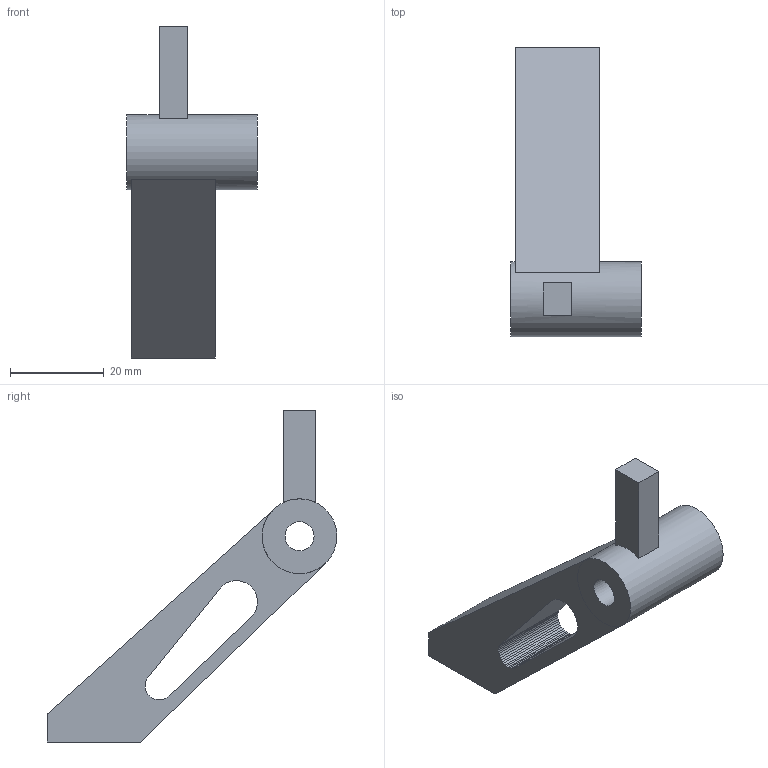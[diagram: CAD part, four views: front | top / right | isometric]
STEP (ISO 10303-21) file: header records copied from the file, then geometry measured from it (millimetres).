
FILE_DESCRIPTION(('Open CASCADE Model'),'2;1');
FILE_NAME('Open CASCADE Shape Model','2026-10-15T19:48:38',('Author'),( 'Open CASCADE'),'Open CASCADE STEP processor 7.9','Open CASCADE 7.9' ,'Unknown');
FILE_SCHEMA(('AUTOMOTIVE_DESIGN { 1 0 10303 214 1 1 1 1 }'));
Length unit declared in the file: millimetre
Products named in the file (1): Open CASCADE STEP translator 7.9 16
Bounding box: 28 x 62 x 71 mm (x, y, z)
Volume: 19151.1 mm3; surface area: 7792.3 mm2
Topology: 1 solids, 1 shells, 57 faces, 172 edges, 118 vertices
Faces by surface type: plane 55, cylinder 2
Full cylindrical faces by diameter (mm): 6.2 x1, 16 x1
Entity records: 4224 total; most frequent: CARTESIAN_POINT 792, DIRECTION 632, LINE 472, VECTOR 472, ORIENTED_EDGE 344, PCURVE 344, DEFINITIONAL_REPRESENTATION 344, EDGE_CURVE 172
